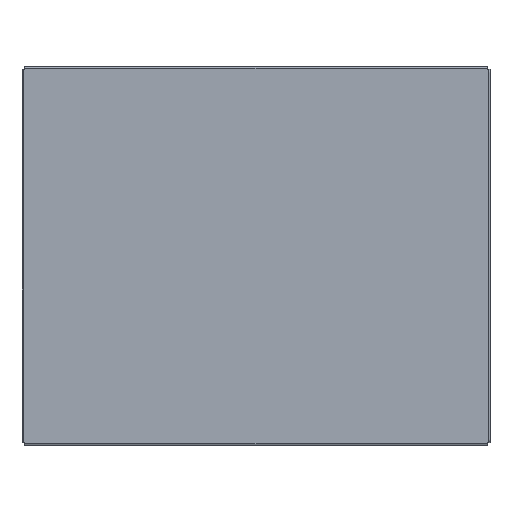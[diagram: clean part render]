
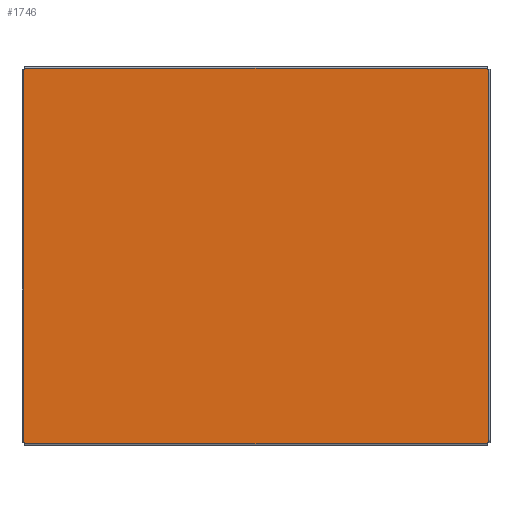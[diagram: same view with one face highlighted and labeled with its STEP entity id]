
A CAD part, top view. The second image highlights one B-rep face of the part: STEP entity #1746.
In plain terms, the highlighted planar face has unit normal (0, 0, 1).
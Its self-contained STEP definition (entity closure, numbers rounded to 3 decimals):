
#6 = CARTESIAN_POINT ( 'NONE',  ( 345.75, 279.25, 2. ) ) ;
#28 = CARTESIAN_POINT ( 'NONE',  ( -345., 279.25, 2. ) ) ;
#32 = VECTOR ( 'NONE', #1525, 1000. ) ;
#40 = DIRECTION ( 'NONE',  ( 1., 0., 0. ) ) ;
#41 = CARTESIAN_POINT ( 'NONE',  ( -345.75, 278.25, 2. ) ) ;
#44 = ORIENTED_EDGE ( 'NONE', *, *, #2437, .T. ) ;
#57 = ORIENTED_EDGE ( 'NONE', *, *, #1629, .F. ) ;
#108 = CARTESIAN_POINT ( 'NONE',  ( -345., -279.25, 2. ) ) ;
#112 = LINE ( 'NONE', #108, #791 ) ;
#120 = DIRECTION ( 'NONE',  ( 1., 0., 0. ) ) ;
#144 = VERTEX_POINT ( 'NONE', #2626 ) ;
#155 = EDGE_CURVE ( 'NONE', #1107, #2777, #1871, .T. ) ;
#169 = DIRECTION ( 'NONE',  ( 1., 0., 0. ) ) ;
#187 = DIRECTION ( 'NONE',  ( 0., -1., 0. ) ) ;
#194 = ORIENTED_EDGE ( 'NONE', *, *, #2695, .F. ) ;
#203 = LINE ( 'NONE', #511, #2479 ) ;
#223 = ORIENTED_EDGE ( 'NONE', *, *, #2569, .F. ) ;
#224 = VERTEX_POINT ( 'NONE', #1219 ) ;
#227 = LINE ( 'NONE', #2176, #2559 ) ;
#242 = CARTESIAN_POINT ( 'NONE',  ( -345., -279.25, 2. ) ) ;
#269 = CARTESIAN_POINT ( 'NONE',  ( -345.75, -279.25, 2. ) ) ;
#277 = DIRECTION ( 'NONE',  ( 0., -1., 0. ) ) ;
#303 = VERTEX_POINT ( 'NONE', #1311 ) ;
#319 = ORIENTED_EDGE ( 'NONE', *, *, #2309, .F. ) ;
#342 = CARTESIAN_POINT ( 'NONE',  ( -345.75, -278.25, 2. ) ) ;
#347 = CARTESIAN_POINT ( 'NONE',  ( -345., 279.25, 2. ) ) ;
#400 = VECTOR ( 'NONE', #942, 1000. ) ;
#404 = DIRECTION ( 'NONE',  ( 0., 0., -1. ) ) ;
#425 = CARTESIAN_POINT ( 'NONE',  ( -346.5, 278.25, 2. ) ) ;
#429 = ORIENTED_EDGE ( 'NONE', *, *, #898, .F. ) ;
#430 = ORIENTED_EDGE ( 'NONE', *, *, #2131, .F. ) ;
#448 = ORIENTED_EDGE ( 'NONE', *, *, #155, .F. ) ;
#471 = CARTESIAN_POINT ( 'NONE',  ( 345., -279.25, 2. ) ) ;
#484 = CARTESIAN_POINT ( 'NONE',  ( 345.75, -278.25, 2. ) ) ;
#486 = VERTEX_POINT ( 'NONE', #756 ) ;
#487 = EDGE_CURVE ( 'NONE', #2777, #1480, #1868, .T. ) ;
#511 = CARTESIAN_POINT ( 'NONE',  ( 345., -280., 2. ) ) ;
#519 = CARTESIAN_POINT ( 'NONE',  ( 346.5, -278.25, 2. ) ) ;
#540 = ORIENTED_EDGE ( 'NONE', *, *, #1574, .F. ) ;
#556 = DIRECTION ( 'NONE',  ( 1., 0., 0. ) ) ;
#585 = LINE ( 'NONE', #2206, #744 ) ;
#591 = VERTEX_POINT ( 'NONE', #242 ) ;
#638 = DIRECTION ( 'NONE',  ( 0., -1., 0. ) ) ;
#645 = CARTESIAN_POINT ( 'NONE',  ( 345.75, 279.25, 2. ) ) ;
#671 = VERTEX_POINT ( 'NONE', #484 ) ;
#672 = EDGE_CURVE ( 'NONE', #736, #1480, #203, .T. ) ;
#677 = EDGE_LOOP ( 'NONE', ( #430, #1204, #540, #2288, #1579, #810, #746, #779, #448, #194, #223, #44, #319, #1002, #1712, #57, #2747, #2519, #429, #1281 ) ) ;
#722 = LINE ( 'NONE', #1805, #32 ) ;
#726 = CARTESIAN_POINT ( 'NONE',  ( 345., -280., 2. ) ) ;
#729 = EDGE_CURVE ( 'NONE', #2523, #739, #722, .T. ) ;
#736 = VERTEX_POINT ( 'NONE', #1422 ) ;
#739 = VERTEX_POINT ( 'NONE', #1493 ) ;
#744 = VECTOR ( 'NONE', #936, 1000. ) ;
#746 = ORIENTED_EDGE ( 'NONE', *, *, #672, .T. ) ;
#750 = LINE ( 'NONE', #1575, #1933 ) ;
#751 = CARTESIAN_POINT ( 'NONE',  ( -345., -280., 2. ) ) ;
#754 = DIRECTION ( 'NONE',  ( 0., 1., 0. ) ) ;
#756 = CARTESIAN_POINT ( 'NONE',  ( 345.75, 278.25, 2. ) ) ;
#777 = CARTESIAN_POINT ( 'NONE',  ( -346.5, -278.25, 2. ) ) ;
#779 = ORIENTED_EDGE ( 'NONE', *, *, #487, .F. ) ;
#791 = VECTOR ( 'NONE', #1086, 1000. ) ;
#806 = CARTESIAN_POINT ( 'NONE',  ( -345., 280., 2. ) ) ;
#810 = ORIENTED_EDGE ( 'NONE', *, *, #836, .F. ) ;
#836 = EDGE_CURVE ( 'NONE', #736, #591, #2238, .T. ) ;
#844 = VERTEX_POINT ( 'NONE', #645 ) ;
#869 = DIRECTION ( 'NONE',  ( 0., -1., 0. ) ) ;
#895 = DIRECTION ( 'NONE',  ( -1., 0., 0. ) ) ;
#898 = EDGE_CURVE ( 'NONE', #739, #1120, #2112, .T. ) ;
#936 = DIRECTION ( 'NONE',  ( 0., -1., 0. ) ) ;
#942 = DIRECTION ( 'NONE',  ( -1., 0., 0. ) ) ;
#1002 = ORIENTED_EDGE ( 'NONE', *, *, #2054, .F. ) ;
#1042 = EDGE_CURVE ( 'NONE', #1120, #303, #1800, .T. ) ;
#1086 = DIRECTION ( 'NONE',  ( -1., 0., 0. ) ) ;
#1091 = CARTESIAN_POINT ( 'NONE',  ( -345.75, 278.25, 2. ) ) ;
#1107 = VERTEX_POINT ( 'NONE', #2718 ) ;
#1120 = VERTEX_POINT ( 'NONE', #347 ) ;
#1129 = VECTOR ( 'NONE', #754, 1000. ) ;
#1144 = EDGE_CURVE ( 'NONE', #591, #224, #112, .T. ) ;
#1146 = VERTEX_POINT ( 'NONE', #2154 ) ;
#1204 = ORIENTED_EDGE ( 'NONE', *, *, #1863, .T. ) ;
#1217 = LINE ( 'NONE', #1753, #2714 ) ;
#1219 = CARTESIAN_POINT ( 'NONE',  ( -345.75, -279.25, 2. ) ) ;
#1254 = VECTOR ( 'NONE', #869, 1000. ) ;
#1281 = ORIENTED_EDGE ( 'NONE', *, *, #729, .F. ) ;
#1288 = LINE ( 'NONE', #1375, #1726 ) ;
#1296 = VECTOR ( 'NONE', #638, 1000. ) ;
#1311 = CARTESIAN_POINT ( 'NONE',  ( -345., 280., 2. ) ) ;
#1319 = LINE ( 'NONE', #2117, #1826 ) ;
#1341 = EDGE_CURVE ( 'NONE', #1146, #303, #2005, .T. ) ;
#1375 = CARTESIAN_POINT ( 'NONE',  ( -346.5, 0., 2. ) ) ;
#1388 = VECTOR ( 'NONE', #1950, 1000. ) ;
#1419 = VERTEX_POINT ( 'NONE', #519 ) ;
#1422 = CARTESIAN_POINT ( 'NONE',  ( -345., -280., 2. ) ) ;
#1428 = EDGE_CURVE ( 'NONE', #224, #2072, #2785, .T. ) ;
#1434 = VERTEX_POINT ( 'NONE', #777 ) ;
#1445 = DIRECTION ( 'NONE',  ( -1., 0., 0. ) ) ;
#1480 = VERTEX_POINT ( 'NONE', #2284 ) ;
#1491 = VECTOR ( 'NONE', #40, 1000. ) ;
#1493 = CARTESIAN_POINT ( 'NONE',  ( -345.75, 279.25, 2. ) ) ;
#1525 = DIRECTION ( 'NONE',  ( 0., 1., 0. ) ) ;
#1554 = VECTOR ( 'NONE', #556, 1000. ) ;
#1574 = EDGE_CURVE ( 'NONE', #2072, #1434, #2422, .T. ) ;
#1575 = CARTESIAN_POINT ( 'NONE',  ( 345., 279.25, 2. ) ) ;
#1579 = ORIENTED_EDGE ( 'NONE', *, *, #1144, .F. ) ;
#1629 = EDGE_CURVE ( 'NONE', #1146, #144, #2364, .T. ) ;
#1640 = CARTESIAN_POINT ( 'NONE',  ( 345., -279.25, 2. ) ) ;
#1712 = ORIENTED_EDGE ( 'NONE', *, *, #1775, .F. ) ;
#1726 = VECTOR ( 'NONE', #187, 1000. ) ;
#1746 = ADVANCED_FACE ( 'NONE', ( #2623 ), #1776, .F. ) ;
#1753 = CARTESIAN_POINT ( 'NONE',  ( 345.75, 278.25, 2. ) ) ;
#1775 = EDGE_CURVE ( 'NONE', #144, #844, #750, .T. ) ;
#1776 = PLANE ( 'NONE',  #2725 ) ;
#1794 = VERTEX_POINT ( 'NONE', #425 ) ;
#1800 = LINE ( 'NONE', #806, #2789 ) ;
#1805 = CARTESIAN_POINT ( 'NONE',  ( -345.75, 279.25, 2. ) ) ;
#1817 = CARTESIAN_POINT ( 'NONE',  ( -345., 280., 2. ) ) ;
#1826 = VECTOR ( 'NONE', #2700, 1000. ) ;
#1863 = EDGE_CURVE ( 'NONE', #1794, #1434, #1288, .T. ) ;
#1868 = LINE ( 'NONE', #726, #1296 ) ;
#1871 = LINE ( 'NONE', #1640, #2662 ) ;
#1881 = VERTEX_POINT ( 'NONE', #2028 ) ;
#1933 = VECTOR ( 'NONE', #169, 1000. ) ;
#1945 = DIRECTION ( 'NONE',  ( 1., 0., 0. ) ) ;
#1950 = DIRECTION ( 'NONE',  ( -1., 0., 0. ) ) ;
#1998 = DIRECTION ( 'NONE',  ( -1., 0., 0. ) ) ;
#2005 = LINE ( 'NONE', #1817, #400 ) ;
#2028 = CARTESIAN_POINT ( 'NONE',  ( 346.5, 278.25, 2. ) ) ;
#2054 = EDGE_CURVE ( 'NONE', #844, #486, #2419, .T. ) ;
#2072 = VERTEX_POINT ( 'NONE', #2282 ) ;
#2112 = LINE ( 'NONE', #28, #1491 ) ;
#2117 = CARTESIAN_POINT ( 'NONE',  ( 346.5, 278.25, 2. ) ) ;
#2131 = EDGE_CURVE ( 'NONE', #1794, #2523, #2620, .T. ) ;
#2152 = CARTESIAN_POINT ( 'NONE',  ( 345., 280., 2. ) ) ;
#2154 = CARTESIAN_POINT ( 'NONE',  ( 345., 280., 2. ) ) ;
#2176 = CARTESIAN_POINT ( 'NONE',  ( 345.75, -278.25, 2. ) ) ;
#2206 = CARTESIAN_POINT ( 'NONE',  ( 345.75, -279.25, 2. ) ) ;
#2238 = LINE ( 'NONE', #751, #1129 ) ;
#2265 = VECTOR ( 'NONE', #2276, 1000. ) ;
#2276 = DIRECTION ( 'NONE',  ( 0., 1., 0. ) ) ;
#2282 = CARTESIAN_POINT ( 'NONE',  ( -345.75, -278.25, 2. ) ) ;
#2284 = CARTESIAN_POINT ( 'NONE',  ( 345., -280., 2. ) ) ;
#2288 = ORIENTED_EDGE ( 'NONE', *, *, #1428, .F. ) ;
#2293 = VECTOR ( 'NONE', #277, 1000. ) ;
#2303 = DIRECTION ( 'NONE',  ( 0., 1., 0. ) ) ;
#2309 = EDGE_CURVE ( 'NONE', #486, #1881, #1217, .T. ) ;
#2364 = LINE ( 'NONE', #2152, #1254 ) ;
#2419 = LINE ( 'NONE', #6, #2293 ) ;
#2422 = LINE ( 'NONE', #342, #1388 ) ;
#2437 = EDGE_CURVE ( 'NONE', #1419, #1881, #1319, .T. ) ;
#2479 = VECTOR ( 'NONE', #1945, 1000. ) ;
#2519 = ORIENTED_EDGE ( 'NONE', *, *, #1042, .F. ) ;
#2523 = VERTEX_POINT ( 'NONE', #1091 ) ;
#2559 = VECTOR ( 'NONE', #895, 1000. ) ;
#2560 = CARTESIAN_POINT ( 'NONE',  ( 0., 0., 2. ) ) ;
#2569 = EDGE_CURVE ( 'NONE', #1419, #671, #227, .T. ) ;
#2620 = LINE ( 'NONE', #41, #1554 ) ;
#2623 = FACE_OUTER_BOUND ( 'NONE', #677, .T. ) ;
#2626 = CARTESIAN_POINT ( 'NONE',  ( 345., 279.25, 2. ) ) ;
#2662 = VECTOR ( 'NONE', #1445, 1000. ) ;
#2695 = EDGE_CURVE ( 'NONE', #671, #1107, #585, .T. ) ;
#2700 = DIRECTION ( 'NONE',  ( 0., 1., 0. ) ) ;
#2714 = VECTOR ( 'NONE', #120, 1000. ) ;
#2718 = CARTESIAN_POINT ( 'NONE',  ( 345.75, -279.25, 2. ) ) ;
#2725 = AXIS2_PLACEMENT_3D ( 'NONE', #2560, #404, #1998 ) ;
#2747 = ORIENTED_EDGE ( 'NONE', *, *, #1341, .T. ) ;
#2777 = VERTEX_POINT ( 'NONE', #471 ) ;
#2785 = LINE ( 'NONE', #269, #2265 ) ;
#2789 = VECTOR ( 'NONE', #2303, 1000. ) ;
